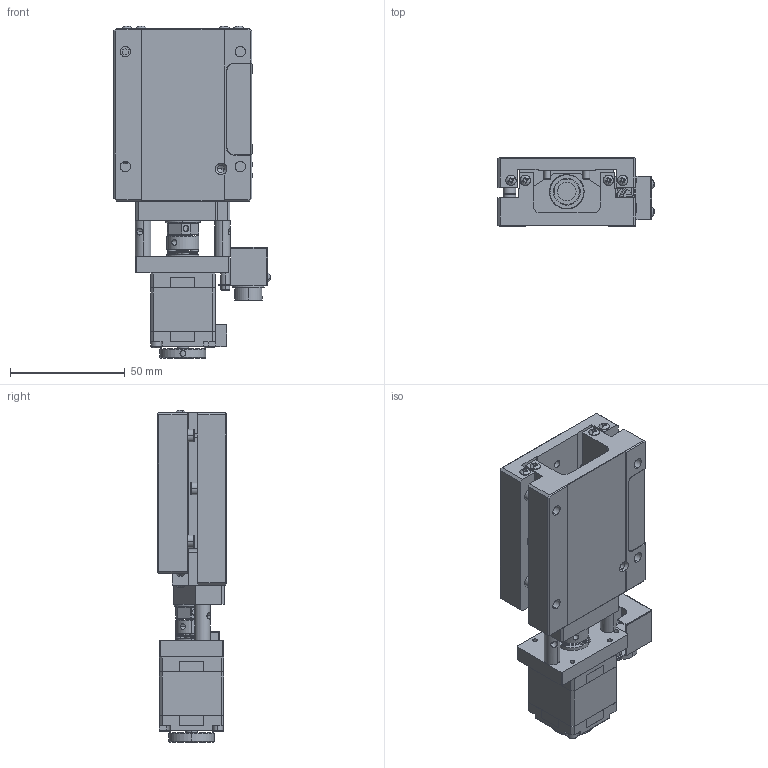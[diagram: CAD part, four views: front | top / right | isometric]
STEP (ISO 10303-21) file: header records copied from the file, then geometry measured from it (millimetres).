
FILE_DESCRIPTION (( 'STEP AP214' ), '1' );
FILE_NAME ('TXS6030B-L1-M28L.STEP', '2025-01-03T09:14:39', ( '' ), ( '' ), 'SwSTEP 2.0', 'SolidWorks 2020', '' );
FILE_SCHEMA (( 'AUTOMOTIVE_DESIGN' ));
Length unit declared in the file: millimetre
Products named in the file (1): TXS6030B-L1-M28L
Bounding box: 67.98 x 30 x 144.43 mm (x, y, z)
Volume: 128872.2 mm3; surface area: 62927.2 mm2
Topology: 86 solids, 86 shells, 2016 faces, 5278 edges, 3377 vertices
Faces by surface type: plane 980, cylinder 660, cone 184, torus 88, bspline 68, sphere 36
Entity records: 68145 total; most frequent: CARTESIAN_POINT 17801, DIRECTION 10376, ORIENTED_EDGE 10234, EDGE_CURVE 5117, AXIS2_PLACEMENT_3D 3894, VERTEX_POINT 3377, LINE 2588, VECTOR 2588
